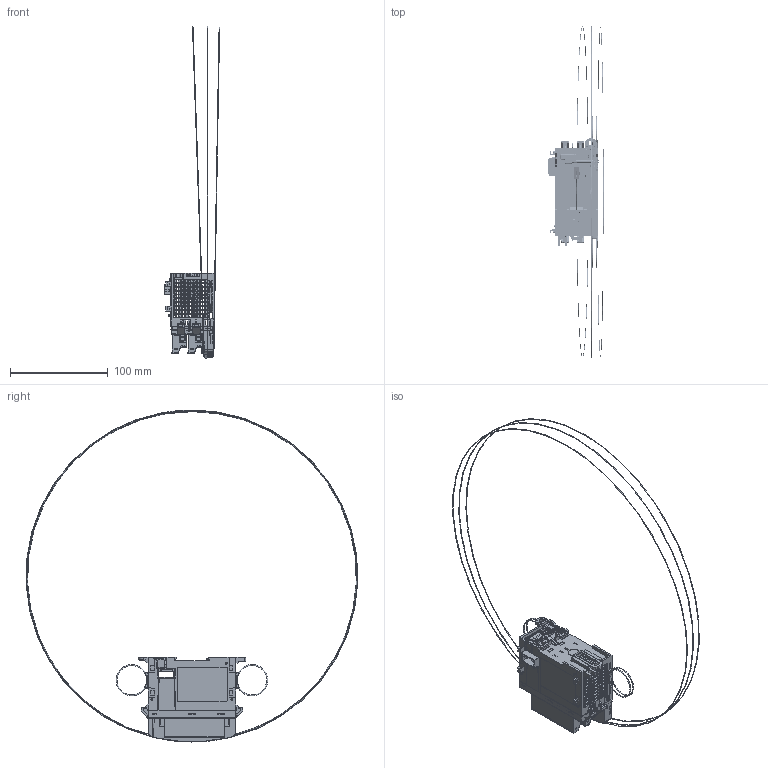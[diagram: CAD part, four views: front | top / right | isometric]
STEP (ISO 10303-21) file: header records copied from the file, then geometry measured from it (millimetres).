
FILE_DESCRIPTION((''),'2;1');
FILE_NAME('2085-IQ16_2085-OV16_2085-OB16_2','2012-10-24T',('skang'),('Rockwell Automation'),'PRO/ENGINEER BY PARAMETRIC TECHNOLOGY CORPORATION, 2010140','PRO/ENGINEER BY PARAMETRIC TECHNOLOGY CORPORATION, 2010140','');
FILE_SCHEMA(('CONFIG_CONTROL_DESIGN'));
Products named in the file (1): 2085-IQ16_2085-OV16_2085-OB16_2
Bounding box: 56.52 x 339.66 x 340 mm (x, y, z)
Surface area: 97878.3 mm2 (no closed solid volume)
Topology: 0 solids, 0 shells, 5318 faces, 30217 edges, 29973 vertices
Faces by surface type: bspline 5067, torus 139, sphere 112
Entity records: 416686 total; most frequent: CARTESIAN_POINT 144099, DIRECTION 42723, TRIMMED_CURVE 39705, VECTOR 37189, LINE 37189, DEFINITIONAL_REPRESENTATION 29734, PCURVE 29734, COMPOSITE_CURVE_SEGMENT 29734
